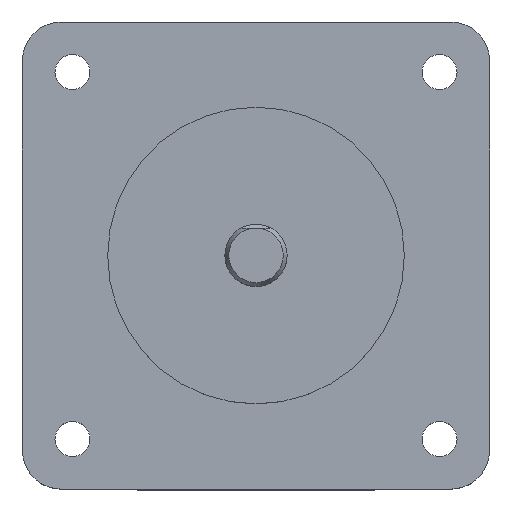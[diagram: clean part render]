
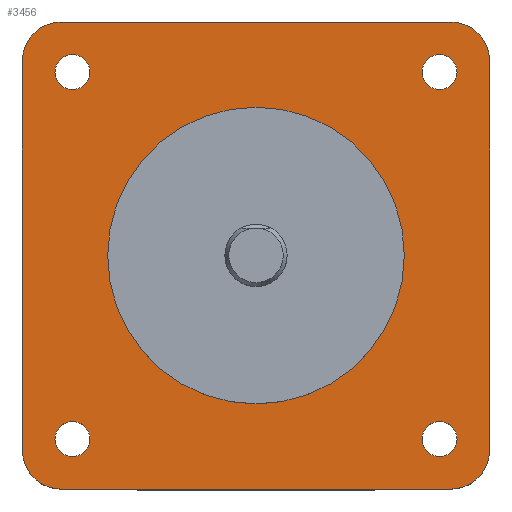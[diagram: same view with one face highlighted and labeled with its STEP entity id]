
A CAD part, top view. The second image highlights one B-rep face of the part: STEP entity #3456.
In plain terms, the highlighted planar face has unit normal (0, 0, 1).
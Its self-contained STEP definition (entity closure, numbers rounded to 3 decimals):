
#200=CARTESIAN_POINT('',(-23.57,23.57,0.));
#201=DIRECTION('',(0.,0.,1.));
#202=DIRECTION('',(1.,0.,0.));
#203=AXIS2_PLACEMENT_3D('',#200,#201,#202);
#209=CARTESIAN_POINT('',(-23.57,23.57,0.));
#210=DIRECTION('',(0.,0.,1.));
#211=DIRECTION('',(-1.,0.,0.));
#212=AXIS2_PLACEMENT_3D('',#209,#210,#211);
#217=CARTESIAN_POINT('',(23.57,23.57,0.));
#218=DIRECTION('',(0.,0.,1.));
#219=DIRECTION('',(1.,0.,0.));
#220=AXIS2_PLACEMENT_3D('',#217,#218,#219);
#225=CARTESIAN_POINT('',(23.57,23.57,0.));
#226=DIRECTION('',(0.,0.,1.));
#227=DIRECTION('',(-1.,0.,0.));
#228=AXIS2_PLACEMENT_3D('',#225,#226,#227);
#233=CARTESIAN_POINT('',(-23.57,-23.57,0.));
#234=DIRECTION('',(0.,0.,1.));
#235=DIRECTION('',(1.,0.,0.));
#236=AXIS2_PLACEMENT_3D('',#233,#234,#235);
#241=CARTESIAN_POINT('',(-23.57,-23.57,0.));
#242=DIRECTION('',(0.,0.,1.));
#243=DIRECTION('',(-1.,0.,0.));
#244=AXIS2_PLACEMENT_3D('',#241,#242,#243);
#249=CARTESIAN_POINT('',(23.57,-23.57,0.));
#250=DIRECTION('',(0.,0.,1.));
#251=DIRECTION('',(1.,0.,0.));
#252=AXIS2_PLACEMENT_3D('',#249,#250,#251);
#257=CARTESIAN_POINT('',(23.57,-23.57,0.));
#258=DIRECTION('',(0.,0.,1.));
#259=DIRECTION('',(-1.,0.,0.));
#260=AXIS2_PLACEMENT_3D('',#257,#258,#259);
#265=CARTESIAN_POINT('',(25.,25.,0.));
#266=DIRECTION('',(0.,0.,1.));
#267=DIRECTION('',(1.,0.,0.));
#268=AXIS2_PLACEMENT_3D('',#265,#266,#267);
#273=DIRECTION('',(0.,-1.,0.));
#274=VECTOR('',#273,50.);
#275=CARTESIAN_POINT('',(30.,25.,0.));
#276=LINE('',#275,#274);
#280=CARTESIAN_POINT('',(25.,-25.,0.));
#281=DIRECTION('',(0.,0.,1.));
#282=DIRECTION('',(0.,-1.,0.));
#283=AXIS2_PLACEMENT_3D('',#280,#281,#282);
#288=DIRECTION('',(-1.,0.,0.));
#289=VECTOR('',#288,50.);
#290=CARTESIAN_POINT('',(25.,-30.,0.));
#291=LINE('',#290,#289);
#295=CARTESIAN_POINT('',(-25.,-25.,0.));
#296=DIRECTION('',(0.,0.,1.));
#297=DIRECTION('',(-1.,0.,0.));
#298=AXIS2_PLACEMENT_3D('',#295,#296,#297);
#303=DIRECTION('',(0.,1.,0.));
#304=VECTOR('',#303,50.);
#305=CARTESIAN_POINT('',(-30.,-25.,0.));
#306=LINE('',#305,#304);
#310=CARTESIAN_POINT('',(-25.,25.,0.));
#311=DIRECTION('',(0.,0.,1.));
#312=DIRECTION('',(0.,1.,0.));
#313=AXIS2_PLACEMENT_3D('',#310,#311,#312);
#318=DIRECTION('',(1.,0.,0.));
#319=VECTOR('',#318,50.);
#320=CARTESIAN_POINT('',(-25.,30.,0.));
#321=LINE('',#320,#319);
#325=CARTESIAN_POINT('',(0.,0.,0.));
#326=DIRECTION('',(0.,0.,1.));
#327=DIRECTION('',(1.,0.,0.));
#328=AXIS2_PLACEMENT_3D('',#325,#326,#327);
#333=CARTESIAN_POINT('',(0.,0.,0.));
#334=DIRECTION('',(0.,0.,1.));
#335=DIRECTION('',(-1.,0.,0.));
#336=AXIS2_PLACEMENT_3D('',#333,#334,#335);
#2941=CARTESIAN_POINT('',(30.,25.,0.));
#2942=VERTEX_POINT('',#2941);
#2943=CARTESIAN_POINT('',(25.,30.,0.));
#2944=VERTEX_POINT('',#2943);
#2949=CARTESIAN_POINT('',(-25.,30.,0.));
#2950=VERTEX_POINT('',#2949);
#2951=CARTESIAN_POINT('',(-30.,25.,0.));
#2952=VERTEX_POINT('',#2951);
#2957=CARTESIAN_POINT('',(25.,-30.,0.));
#2958=VERTEX_POINT('',#2957);
#2959=CARTESIAN_POINT('',(30.,-25.,0.));
#2960=VERTEX_POINT('',#2959);
#2965=CARTESIAN_POINT('',(-30.,-25.,0.));
#2966=VERTEX_POINT('',#2965);
#2967=CARTESIAN_POINT('',(-25.,-30.,0.));
#2968=VERTEX_POINT('',#2967);
#3005=CARTESIAN_POINT('',(19.05,0.,0.));
#3006=CARTESIAN_POINT('',(-19.05,0.,0.));
#3007=VERTEX_POINT('',#3005);
#3008=VERTEX_POINT('',#3006);
#3021=CARTESIAN_POINT('',(-21.32,23.57,0.));
#3022=CARTESIAN_POINT('',(-25.82,23.57,0.));
#3023=VERTEX_POINT('',#3021);
#3024=VERTEX_POINT('',#3022);
#3025=CARTESIAN_POINT('',(25.82,23.57,0.));
#3026=CARTESIAN_POINT('',(21.32,23.57,0.));
#3027=VERTEX_POINT('',#3025);
#3028=VERTEX_POINT('',#3026);
#3029=CARTESIAN_POINT('',(-21.32,-23.57,0.));
#3030=CARTESIAN_POINT('',(-25.82,-23.57,0.));
#3031=VERTEX_POINT('',#3029);
#3032=VERTEX_POINT('',#3030);
#3033=CARTESIAN_POINT('',(25.82,-23.57,0.));
#3034=CARTESIAN_POINT('',(21.32,-23.57,0.));
#3035=VERTEX_POINT('',#3033);
#3036=VERTEX_POINT('',#3034);
#3403=CARTESIAN_POINT('',(0.,0.,0.));
#3404=DIRECTION('',(0.,0.,1.));
#3405=DIRECTION('',(1.,0.,0.));
#3406=AXIS2_PLACEMENT_3D('',#3403,#3404,#3405);
#3407=PLANE('',#3406);
#3409=ORIENTED_EDGE('',*,*,#3408,.F.);
#3411=ORIENTED_EDGE('',*,*,#3410,.T.);
#3413=ORIENTED_EDGE('',*,*,#3412,.F.);
#3415=ORIENTED_EDGE('',*,*,#3414,.T.);
#3417=ORIENTED_EDGE('',*,*,#3416,.F.);
#3419=ORIENTED_EDGE('',*,*,#3418,.T.);
#3421=ORIENTED_EDGE('',*,*,#3420,.F.);
#3423=ORIENTED_EDGE('',*,*,#3422,.T.);
#3424=EDGE_LOOP('',(#3409,#3411,#3413,#3415,#3417,#3419,#3421,#3423));
#3425=FACE_OUTER_BOUND('',#3424,.F.);
#3427=ORIENTED_EDGE('',*,*,#3426,.T.);
#3429=ORIENTED_EDGE('',*,*,#3428,.T.);
#3430=EDGE_LOOP('',(#3427,#3429));
#3431=FACE_BOUND('',#3430,.F.);
#3433=ORIENTED_EDGE('',*,*,#3432,.T.);
#3435=ORIENTED_EDGE('',*,*,#3434,.T.);
#3436=EDGE_LOOP('',(#3433,#3435));
#3437=FACE_BOUND('',#3436,.F.);
#3439=ORIENTED_EDGE('',*,*,#3438,.T.);
#3441=ORIENTED_EDGE('',*,*,#3440,.T.);
#3442=EDGE_LOOP('',(#3439,#3441));
#3443=FACE_BOUND('',#3442,.F.);
#3445=ORIENTED_EDGE('',*,*,#3444,.T.);
#3447=ORIENTED_EDGE('',*,*,#3446,.T.);
#3448=EDGE_LOOP('',(#3445,#3447));
#3449=FACE_BOUND('',#3448,.F.);
#3451=ORIENTED_EDGE('',*,*,#3450,.T.);
#3453=ORIENTED_EDGE('',*,*,#3452,.T.);
#3454=EDGE_LOOP('',(#3451,#3453));
#3455=FACE_BOUND('',#3454,.F.);
#3456=ADVANCED_FACE('',(#3425,#3431,#3437,#3443,#3449,#3455),#3407,.T.);
#204=CIRCLE('',#203,2.25);
#213=CIRCLE('',#212,2.25);
#221=CIRCLE('',#220,2.25);
#229=CIRCLE('',#228,2.25);
#237=CIRCLE('',#236,2.25);
#245=CIRCLE('',#244,2.25);
#253=CIRCLE('',#252,2.25);
#261=CIRCLE('',#260,2.25);
#269=CIRCLE('',#268,5.);
#284=CIRCLE('',#283,5.);
#299=CIRCLE('',#298,5.);
#314=CIRCLE('',#313,5.);
#329=CIRCLE('',#328,19.05);
#337=CIRCLE('',#336,19.05);
#3408=EDGE_CURVE('',#2942,#2944,#269,.T.);
#3410=EDGE_CURVE('',#2942,#2960,#276,.T.);
#3412=EDGE_CURVE('',#2958,#2960,#284,.T.);
#3414=EDGE_CURVE('',#2958,#2968,#291,.T.);
#3416=EDGE_CURVE('',#2966,#2968,#299,.T.);
#3418=EDGE_CURVE('',#2966,#2952,#306,.T.);
#3420=EDGE_CURVE('',#2950,#2952,#314,.T.);
#3422=EDGE_CURVE('',#2950,#2944,#321,.T.);
#3426=EDGE_CURVE('',#3023,#3024,#204,.T.);
#3428=EDGE_CURVE('',#3024,#3023,#213,.T.);
#3432=EDGE_CURVE('',#3027,#3028,#221,.T.);
#3434=EDGE_CURVE('',#3028,#3027,#229,.T.);
#3438=EDGE_CURVE('',#3031,#3032,#237,.T.);
#3440=EDGE_CURVE('',#3032,#3031,#245,.T.);
#3444=EDGE_CURVE('',#3035,#3036,#253,.T.);
#3446=EDGE_CURVE('',#3036,#3035,#261,.T.);
#3450=EDGE_CURVE('',#3007,#3008,#329,.T.);
#3452=EDGE_CURVE('',#3008,#3007,#337,.T.);
